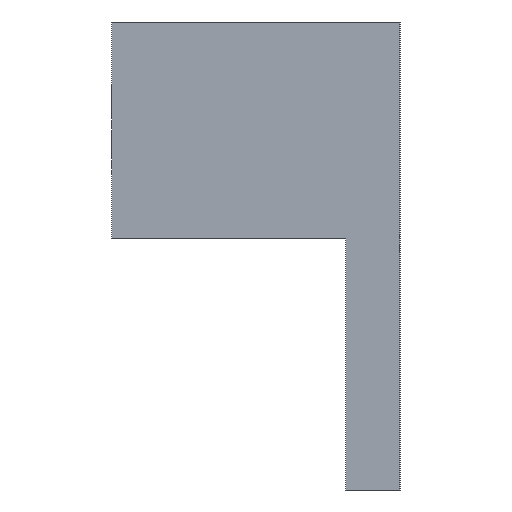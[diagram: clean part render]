
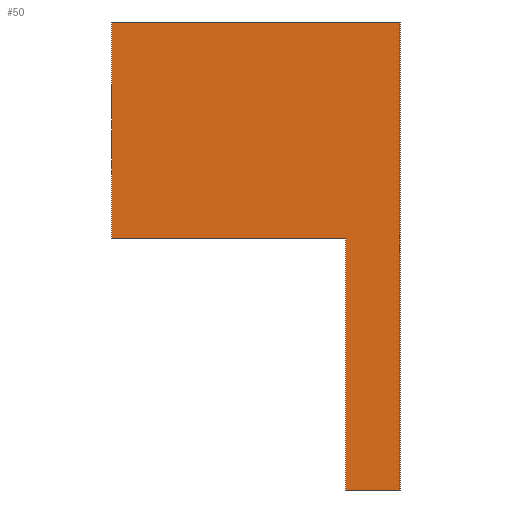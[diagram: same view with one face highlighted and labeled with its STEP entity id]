
A CAD part, left-side view. The second image highlights one B-rep face of the part: STEP entity #50.
In plain terms, the highlighted planar face has unit normal (-1, 0, 0).
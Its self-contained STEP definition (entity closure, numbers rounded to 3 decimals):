
#50 = ADVANCED_FACE( '', ( #102 ), #103, .F. );
#102 = FACE_OUTER_BOUND( '', #149, .T. );
#103 = PLANE( '', #150 );
#149 = EDGE_LOOP( '', ( #218, #219, #220, #221, #222, #223 ) );
#150 = AXIS2_PLACEMENT_3D( '', #224, #225, #226 );
#218 = ORIENTED_EDGE( '', *, *, #276, .F. );
#219 = ORIENTED_EDGE( '', *, *, #272, .F. );
#220 = ORIENTED_EDGE( '', *, *, #282, .F. );
#221 = ORIENTED_EDGE( '', *, *, #283, .F. );
#222 = ORIENTED_EDGE( '', *, *, #257, .F. );
#223 = ORIENTED_EDGE( '', *, *, #284, .F. );
#224 = CARTESIAN_POINT( '', ( -10., 0., 0. ) );
#225 = DIRECTION( '', ( 1., 0., 0. ) );
#226 = DIRECTION( '', ( 0., 0., -1. ) );
#257 = EDGE_CURVE( '', #291, #292, #293, .T. );
#272 = EDGE_CURVE( '', #317, #318, #319, .T. );
#276 = EDGE_CURVE( '', #318, #323, #324, .T. );
#282 = EDGE_CURVE( '', #331, #317, #332, .T. );
#283 = EDGE_CURVE( '', #292, #331, #333, .T. );
#284 = EDGE_CURVE( '', #323, #291, #334, .T. );
#291 = VERTEX_POINT( '', #341 );
#292 = VERTEX_POINT( '', #342 );
#293 = LINE( '', #343, #344 );
#317 = VERTEX_POINT( '', #376 );
#318 = VERTEX_POINT( '', #377 );
#319 = LINE( '', #378, #379 );
#323 = VERTEX_POINT( '', #385 );
#324 = LINE( '', #386, #387 );
#331 = VERTEX_POINT( '', #395 );
#332 = LINE( '', #396, #397 );
#333 = LINE( '', #398, #399 );
#334 = LINE( '', #400, #401 );
#341 = CARTESIAN_POINT( '', ( -10., -16., -20. ) );
#342 = CARTESIAN_POINT( '', ( -10., -13., -20. ) );
#343 = CARTESIAN_POINT( '', ( -10., -16., -20. ) );
#344 = VECTOR( '', #408, 1000. );
#376 = CARTESIAN_POINT( '', ( -10., 0., -6. ) );
#377 = CARTESIAN_POINT( '', ( -10., 0., 6. ) );
#378 = CARTESIAN_POINT( '', ( -10., 0., -6. ) );
#379 = VECTOR( '', #426, 1000. );
#385 = CARTESIAN_POINT( '', ( -10., -16., 6. ) );
#386 = CARTESIAN_POINT( '', ( -10., 0., 6. ) );
#387 = VECTOR( '', #429, 1000. );
#395 = CARTESIAN_POINT( '', ( -10., -13., -6. ) );
#396 = CARTESIAN_POINT( '', ( -10., -13., -6. ) );
#397 = VECTOR( '', #434, 1000. );
#398 = CARTESIAN_POINT( '', ( -10., -13., -20. ) );
#399 = VECTOR( '', #435, 1000. );
#400 = CARTESIAN_POINT( '', ( -10., -16., 6. ) );
#401 = VECTOR( '', #436, 1000. );
#408 = DIRECTION( '', ( 0., 1., 0. ) );
#426 = DIRECTION( '', ( 0., 0., 1. ) );
#429 = DIRECTION( '', ( 0., -1., 0. ) );
#434 = DIRECTION( '', ( 0., 1., 0. ) );
#435 = DIRECTION( '', ( 0., 0., 1. ) );
#436 = DIRECTION( '', ( 0., 0., -1. ) );
